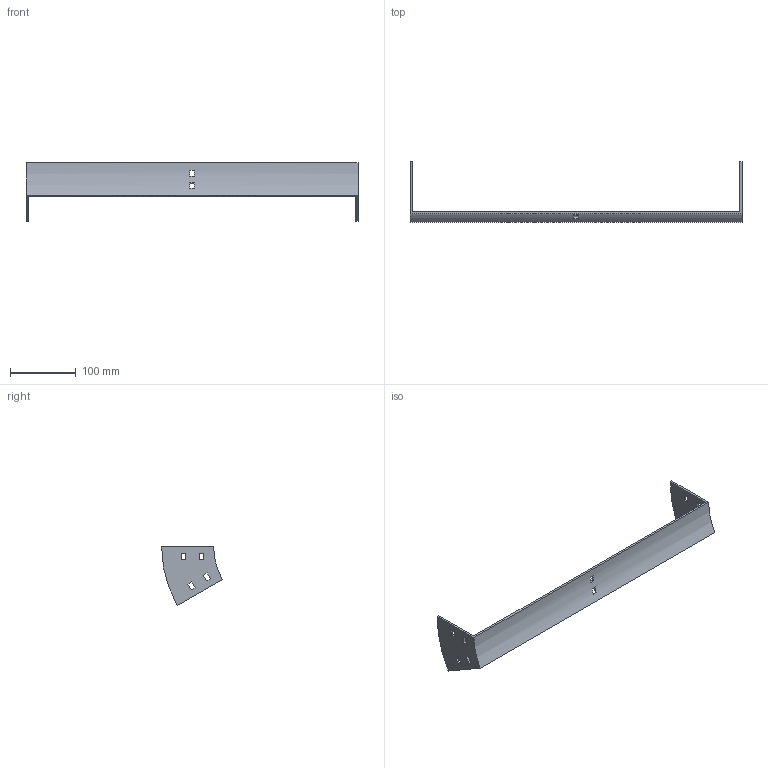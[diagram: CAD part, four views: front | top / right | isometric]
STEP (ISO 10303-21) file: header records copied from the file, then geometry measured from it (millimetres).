
FILE_DESCRIPTION (( 'STEP AP214' ), '1' );
FILE_NAME ('35B1C500.step', '2025-02-21T09:26:39', ( '' ), ( '' ), 'SwSTEP 2.0', 'SolidWorks 2023', '' );
FILE_SCHEMA (( 'AUTOMOTIVE_DESIGN' ));
Length unit declared in the file: millimetre
Products named in the file (1): 35B1C500
Bounding box: 504 x 92.4 x 89.5 mm (x, y, z)
Volume: 130691 mm3; surface area: 81087.3 mm2
Topology: 1 solids, 1 shells, 50 faces, 144 edges, 96 vertices
Faces by surface type: plane 46, cylinder 4
Entity records: 1687 total; most frequent: CARTESIAN_POINT 291, ORIENTED_EDGE 288, DIRECTION 262, EDGE_CURVE 144, VECTOR 128, LINE 128, VERTEX_POINT 96, EDGE_LOOP 70
